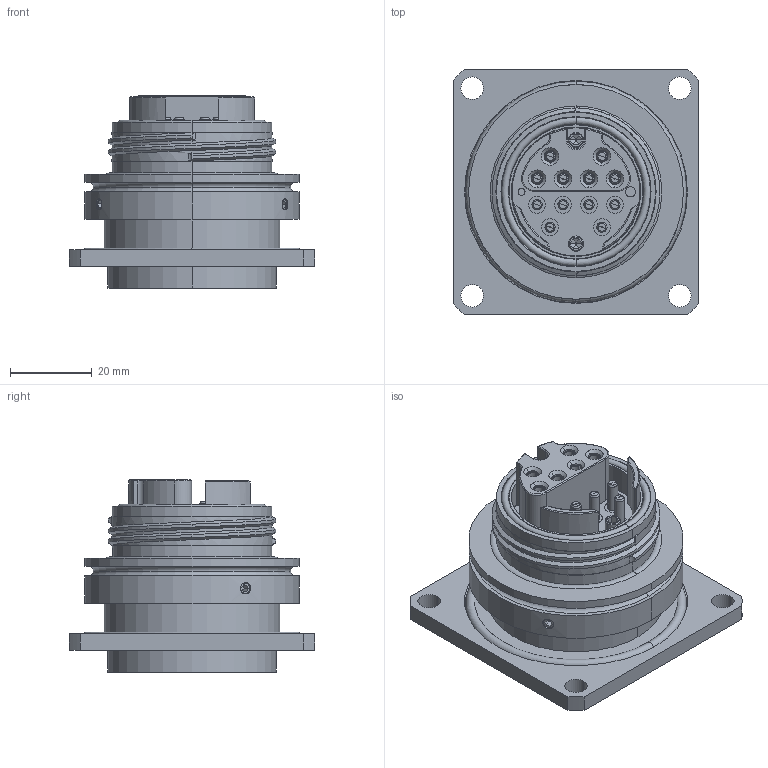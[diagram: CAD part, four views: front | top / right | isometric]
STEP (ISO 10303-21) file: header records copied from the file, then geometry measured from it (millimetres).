
FILE_DESCRIPTION (( 'STEP AP214' ), '1' );
FILE_NAME ('QFOCA-RGXX-12CH-X-S0X.STEP', '2025-06-09T19:50:35', ( '' ), ( '' ), 'SwSTEP 2.0', 'SolidWorks 2024', '' );
FILE_SCHEMA (( 'AUTOMOTIVE_DESIGN' ));
Length unit declared in the file: inch
Products named in the file (1): QFOCA-RGXX-12CH-X-S0X
Bounding box: 60.2 x 60.2 x 47.04 mm (x, y, z)
Volume: 59505.8 mm3; surface area: 30091.3 mm2
Topology: 10 solids, 24 shells, 694 faces, 1638 edges, 1016 vertices
Faces by surface type: cylinder 266, plane 165, cone 160, torus 90, bspline 13
Entity records: 24917 total; most frequent: CARTESIAN_POINT 8549, DIRECTION 3628, ORIENTED_EDGE 3264, EDGE_CURVE 1632, AXIS2_PLACEMENT_3D 1490, VERTEX_POINT 1016, CIRCLE 808, EDGE_LOOP 766
